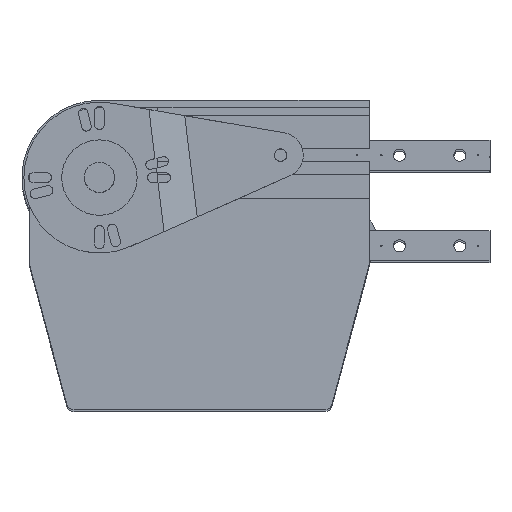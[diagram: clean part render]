
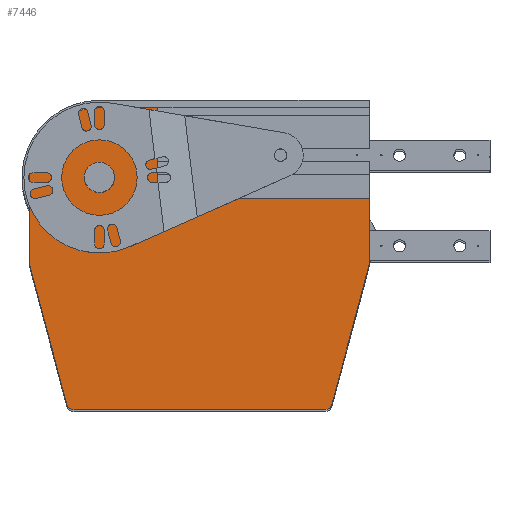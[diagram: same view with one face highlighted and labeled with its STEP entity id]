
A CAD part, top view. The second image highlights one B-rep face of the part: STEP entity #7446.
In plain terms, the highlighted planar face has unit normal (0, 0, 1).
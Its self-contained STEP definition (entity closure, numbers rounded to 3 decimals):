
#3 = CARTESIAN_POINT ( 'NONE',  ( 5.17, -109.636, 386.5 ) ) ;
#38 = CIRCLE ( 'NONE', #1049, 5. ) ;
#171 = VERTEX_POINT ( 'NONE', #3 ) ;
#258 = CARTESIAN_POINT ( 'NONE',  ( 51.3, -5., 386.5 ) ) ;
#262 = DIRECTION ( 'NONE',  ( -1., 0., 0. ) ) ;
#336 = CIRCLE ( 'NONE', #5807, 10. ) ;
#495 = VECTOR ( 'NONE', #4562, 1000. ) ;
#496 = AXIS2_PLACEMENT_3D ( 'NONE', #7410, #1808, #1112 ) ;
#564 = ORIENTED_EDGE ( 'NONE', *, *, #5950, .T. ) ;
#626 = CIRCLE ( 'NONE', #496, 5. ) ;
#647 = AXIS2_PLACEMENT_3D ( 'NONE', #6511, #7013, #3947 ) ;
#772 = ORIENTED_EDGE ( 'NONE', *, *, #5101, .T. ) ;
#782 = ORIENTED_EDGE ( 'NONE', *, *, #1046, .T. ) ;
#888 = VERTEX_POINT ( 'NONE', #4673 ) ;
#929 = AXIS2_PLACEMENT_3D ( 'NONE', #6505, #2705, #262 ) ;
#972 = CARTESIAN_POINT ( 'NONE',  ( 34.56, -205., 386.5 ) ) ;
#1012 = VERTEX_POINT ( 'NONE', #4153 ) ;
#1046 = EDGE_CURVE ( 'NONE', #6683, #6570, #2572, .T. ) ;
#1049 = AXIS2_PLACEMENT_3D ( 'NONE', #6586, #7781, #3482 ) ;
#1079 = DIRECTION ( 'NONE',  ( 0., 0., -1. ) ) ;
#1088 = LINE ( 'NONE', #258, #2570 ) ;
#1112 = DIRECTION ( 'NONE',  ( -1., 0., 0. ) ) ;
#1139 = CIRCLE ( 'NONE', #4761, 10. ) ;
#1327 = CARTESIAN_POINT ( 'NONE',  ( 205.27, -201.294, 386.5 ) ) ;
#1335 = ORIENTED_EDGE ( 'NONE', *, *, #4941, .T. ) ;
#1420 = CARTESIAN_POINT ( 'NONE',  ( 5., -108.342, 386.5 ) ) ;
#1456 = VERTEX_POINT ( 'NONE', #2701 ) ;
#1492 = ORIENTED_EDGE ( 'NONE', *, *, #5824, .T. ) ;
#1540 = EDGE_CURVE ( 'NONE', #6266, #7657, #2094, .T. ) ;
#1592 = DIRECTION ( 'NONE',  ( -1., 0., 0. ) ) ;
#1796 = DIRECTION ( 'NONE',  ( 0., 0., -1. ) ) ;
#1808 = DIRECTION ( 'NONE',  ( 0., 0., 1. ) ) ;
#1958 = VERTEX_POINT ( 'NONE', #5122 ) ;
#2006 = ORIENTED_EDGE ( 'NONE', *, *, #6726, .T. ) ;
#2094 = LINE ( 'NONE', #2178, #5681 ) ;
#2178 = CARTESIAN_POINT ( 'NONE',  ( 230., -106.4, 386.5 ) ) ;
#2186 = CARTESIAN_POINT ( 'NONE',  ( 90., -65., 386.5 ) ) ;
#2294 = DIRECTION ( 'NONE',  ( -1., 0., 0. ) ) ;
#2298 = DIRECTION ( 'NONE',  ( 1., 0., 0. ) ) ;
#2335 = CARTESIAN_POINT ( 'NONE',  ( 200.44, -205., 386.5 ) ) ;
#2398 = VECTOR ( 'NONE', #6280, 1000. ) ;
#2570 = VECTOR ( 'NONE', #1592, 1000. ) ;
#2572 = LINE ( 'NONE', #972, #7322 ) ;
#2701 = CARTESIAN_POINT ( 'NONE',  ( 51.3, -5., 386.5 ) ) ;
#2703 = VECTOR ( 'NONE', #4489, 1000. ) ;
#2705 = DIRECTION ( 'NONE',  ( 0., 0., -1. ) ) ;
#2745 = VERTEX_POINT ( 'NONE', #1420 ) ;
#2863 = DIRECTION ( 'NONE',  ( -1., 0., 0. ) ) ;
#2943 = EDGE_LOOP ( 'NONE', ( #7866, #5254, #1335, #1492, #6148, #4621, #564, #782, #772, #6128, #4997, #6000 ) ) ;
#2961 = FACE_OUTER_BOUND ( 'NONE', #2943, .T. ) ;
#2989 = CIRCLE ( 'NONE', #3387, 5. ) ;
#3053 = DIRECTION ( 'NONE',  ( -1., 0., 0. ) ) ;
#3186 = EDGE_CURVE ( 'NONE', #171, #7202, #3339, .T. ) ;
#3206 = VECTOR ( 'NONE', #2294, 1000. ) ;
#3247 = CARTESIAN_POINT ( 'NONE',  ( 5., -51.3, 386.5 ) ) ;
#3339 = LINE ( 'NONE', #6358, #495 ) ;
#3359 = CARTESIAN_POINT ( 'NONE',  ( 34.56, -200., 386.5 ) ) ;
#3387 = AXIS2_PLACEMENT_3D ( 'NONE', #3359, #7673, #3974 ) ;
#3482 = DIRECTION ( 'NONE',  ( -1., 0., 0. ) ) ;
#3947 = DIRECTION ( 'NONE',  ( -1., 0., 0. ) ) ;
#3974 = DIRECTION ( 'NONE',  ( -1., 0., 0. ) ) ;
#4041 = PLANE ( 'NONE',  #929 ) ;
#4135 = VERTEX_POINT ( 'NONE', #2186 ) ;
#4153 = CARTESIAN_POINT ( 'NONE',  ( 90., -5., 386.5 ) ) ;
#4291 = EDGE_LOOP ( 'NONE', ( #2006, #7699 ) ) ;
#4381 = CARTESIAN_POINT ( 'NONE',  ( 230., -109., 386.5 ) ) ;
#4438 = CARTESIAN_POINT ( 'NONE',  ( 90., -46.4, 386.5 ) ) ;
#4489 = DIRECTION ( 'NONE',  ( 0., 1., 0. ) ) ;
#4562 = DIRECTION ( 'NONE',  ( 0.259, -0.966, 0. ) ) ;
#4621 = ORIENTED_EDGE ( 'NONE', *, *, #3186, .T. ) ;
#4673 = CARTESIAN_POINT ( 'NONE',  ( 41.3, -51.3, 386.5 ) ) ;
#4761 = AXIS2_PLACEMENT_3D ( 'NONE', #6581, #1079, #2863 ) ;
#4774 = CARTESIAN_POINT ( 'NONE',  ( 230., -65., 386.5 ) ) ;
#4842 = EDGE_CURVE ( 'NONE', #4135, #1012, #5421, .T. ) ;
#4941 = EDGE_CURVE ( 'NONE', #1456, #7375, #6785, .T. ) ;
#4943 = VECTOR ( 'NONE', #5661, 1000. ) ;
#4997 = ORIENTED_EDGE ( 'NONE', *, *, #1540, .T. ) ;
#5039 = CARTESIAN_POINT ( 'NONE',  ( 29.73, -201.294, 386.5 ) ) ;
#5101 = EDGE_CURVE ( 'NONE', #6570, #7870, #38, .T. ) ;
#5122 = CARTESIAN_POINT ( 'NONE',  ( 61.3, -51.3, 386.5 ) ) ;
#5162 = EDGE_CURVE ( 'NONE', #1012, #1456, #1088, .T. ) ;
#5240 = LINE ( 'NONE', #4774, #3206 ) ;
#5254 = ORIENTED_EDGE ( 'NONE', *, *, #5162, .T. ) ;
#5333 = DIRECTION ( 'NONE',  ( 0., 1., 0. ) ) ;
#5421 = LINE ( 'NONE', #4438, #2703 ) ;
#5462 = CARTESIAN_POINT ( 'NONE',  ( 51.3, -51.3, 386.5 ) ) ;
#5661 = DIRECTION ( 'NONE',  ( 0.259, 0.966, 0. ) ) ;
#5681 = VECTOR ( 'NONE', #5333, 1000. ) ;
#5790 = LINE ( 'NONE', #3247, #2398 ) ;
#5807 = AXIS2_PLACEMENT_3D ( 'NONE', #5462, #1796, #3053 ) ;
#5824 = EDGE_CURVE ( 'NONE', #7375, #2745, #5790, .T. ) ;
#5950 = EDGE_CURVE ( 'NONE', #7202, #6683, #2989, .T. ) ;
#5970 = FACE_BOUND ( 'NONE', #4291, .T. ) ;
#6000 = ORIENTED_EDGE ( 'NONE', *, *, #7694, .T. ) ;
#6128 = ORIENTED_EDGE ( 'NONE', *, *, #7849, .T. ) ;
#6148 = ORIENTED_EDGE ( 'NONE', *, *, #7014, .T. ) ;
#6266 = VERTEX_POINT ( 'NONE', #8025 ) ;
#6280 = DIRECTION ( 'NONE',  ( 0., -1., 0. ) ) ;
#6358 = CARTESIAN_POINT ( 'NONE',  ( 5.17, -109.636, 386.5 ) ) ;
#6505 = CARTESIAN_POINT ( 'NONE',  ( 200.44, -200., 386.5 ) ) ;
#6511 = CARTESIAN_POINT ( 'NONE',  ( 51.3, -51.3, 386.5 ) ) ;
#6553 = CARTESIAN_POINT ( 'NONE',  ( 230., -65., 386.5 ) ) ;
#6570 = VERTEX_POINT ( 'NONE', #2335 ) ;
#6581 = CARTESIAN_POINT ( 'NONE',  ( 51.3, -51.3, 386.5 ) ) ;
#6586 = CARTESIAN_POINT ( 'NONE',  ( 200.44, -200., 386.5 ) ) ;
#6675 = LINE ( 'NONE', #4381, #4943 ) ;
#6683 = VERTEX_POINT ( 'NONE', #7210 ) ;
#6726 = EDGE_CURVE ( 'NONE', #1958, #888, #336, .T. ) ;
#6785 = CIRCLE ( 'NONE', #647, 46.3 ) ;
#7013 = DIRECTION ( 'NONE',  ( 0., 0., 1. ) ) ;
#7014 = EDGE_CURVE ( 'NONE', #2745, #171, #626, .T. ) ;
#7202 = VERTEX_POINT ( 'NONE', #5039 ) ;
#7210 = CARTESIAN_POINT ( 'NONE',  ( 34.56, -205., 386.5 ) ) ;
#7322 = VECTOR ( 'NONE', #2298, 1000. ) ;
#7375 = VERTEX_POINT ( 'NONE', #7620 ) ;
#7410 = CARTESIAN_POINT ( 'NONE',  ( 10., -108.342, 386.5 ) ) ;
#7446 = ADVANCED_FACE ( 'NONE', ( #5970, #2961 ), #4041, .F. ) ;
#7620 = CARTESIAN_POINT ( 'NONE',  ( 5., -51.3, 386.5 ) ) ;
#7657 = VERTEX_POINT ( 'NONE', #6553 ) ;
#7664 = EDGE_CURVE ( 'NONE', #888, #1958, #1139, .T. ) ;
#7673 = DIRECTION ( 'NONE',  ( 0., 0., 1. ) ) ;
#7694 = EDGE_CURVE ( 'NONE', #7657, #4135, #5240, .T. ) ;
#7699 = ORIENTED_EDGE ( 'NONE', *, *, #7664, .T. ) ;
#7781 = DIRECTION ( 'NONE',  ( 0., 0., 1. ) ) ;
#7849 = EDGE_CURVE ( 'NONE', #7870, #6266, #6675, .T. ) ;
#7866 = ORIENTED_EDGE ( 'NONE', *, *, #4842, .T. ) ;
#7870 = VERTEX_POINT ( 'NONE', #1327 ) ;
#8025 = CARTESIAN_POINT ( 'NONE',  ( 230., -109., 386.5 ) ) ;
